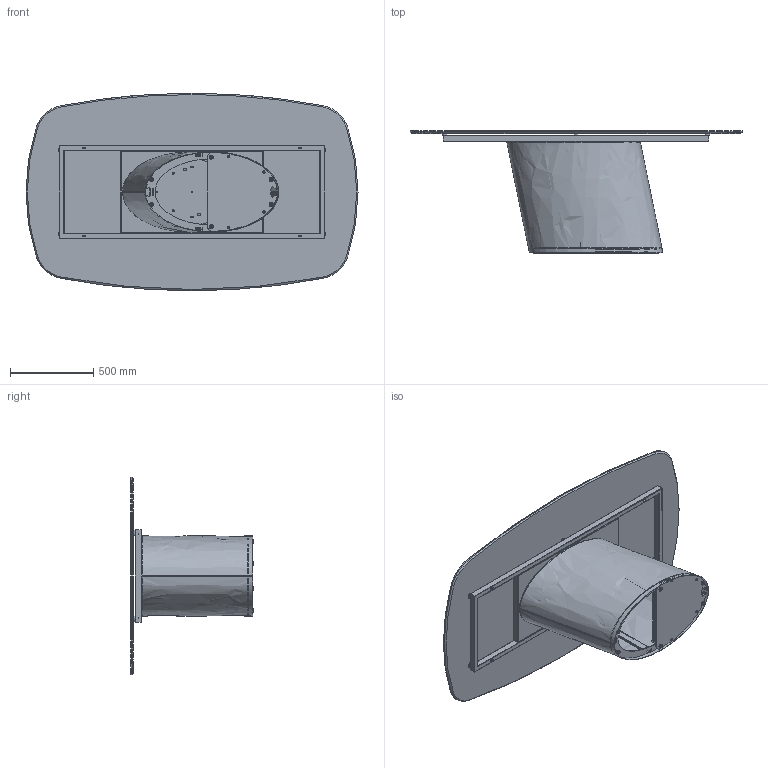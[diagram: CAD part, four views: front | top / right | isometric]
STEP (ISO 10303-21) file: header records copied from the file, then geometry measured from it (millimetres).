
FILE_DESCRIPTION (( 'STEP AP203' ), '1' );
FILE_NAME ('DO40C.STEP', '2024-08-06T13:13:07', ( '' ), ( '' ), 'SwSTEP 2.0', 'SolidWorks 2022', '' );
FILE_SCHEMA (( 'CONFIG_CONTROL_DESIGN' ));
Length unit declared in the file: millimetre
Products named in the file (20): DOB000000_01-00-piastra superiore _Default<A macchina>; TTAV01_02-05-VASSOIO IRRIGIDIMENTO TELAIO UNIVERSALE; DOB000000_03-00-Piastra  inferiore_Default<A macchina>; DOB000000_07-00-lamiera guscio sx_Default<A macchina>; DO40C; DOB000000_06-00-Lamiera guscio dx_Default<A macchina>; barra filettata H.72cm_barra; DOB000000-00-DORADO BASE GREZZO; piedino dorado; DOB000000_05-00-Zavorra intenra del dorado_Default<A macchina>; COLLO TELAIO UNIVERSALE TTAV01 CON FERRAMENTA_MTG TOP CRISTALLO VERNICIATO-CERAMICA; K4XCMXX-00-Piani Sagomati in ceramica_2000 x 1190; TTAV01_01-05-TELAIO UNIVERSALE X TAVOLI 180 240cm; TTAV01-05-TELAIO UNIVERSALE X TAVOLI 180 240cm; DOB000000_02-00-barra rettangoalre di supporto_Default<A macchina>; 434070-00-PIEDINO TPV GOMMA NERO D. 30x8max18_filo estetico; DOB000000_08-00-Zavorra inferiore_Default<A macchina>; M8xXXmm_M8X30mm; DOB000000_04-00-contrapesso filettato_Default<A macchina>; nut_M8_M8
Assembly tree (40 placements, depth 4):
  DO40C
    DOB000000-00-DORADO BASE GREZZO
      DOB000000_08-00-Zavorra inferiore_Default<A macchina>
      DOB000000_04-00-contrapesso filettato_Default<A macchina>
      DOB000000_05-00-Zavorra intenra del dorado_Default<A macchina>  x4
      DOB000000_01-00-piastra superiore _Default<A macchina>
      DOB000000_07-00-lamiera guscio sx_Default<A macchina>
      DOB000000_02-00-barra rettangoalre di supporto_Default<A macchina>  x4
      DOB000000_03-00-Piastra  inferiore_Default<A macchina>
      DOB000000_06-00-Lamiera guscio dx_Default<A macchina>
      M8xXXmm_M8X30mm  x4
      nut_M8_M8  x2
      piedino dorado  x6
      barra filettata H.72cm_barra  x2
    COLLO TELAIO UNIVERSALE TTAV01 CON FERRAMENTA_MTG TOP CRISTALLO VERNICIATO-CERAMICA
      TTAV01-05-TELAIO UNIVERSALE X TAVOLI 180 240cm
        TTAV01_02-05-VASSOIO IRRIGIDIMENTO TELAIO UNIVERSALE
        TTAV01_01-05-TELAIO UNIVERSALE X TAVOLI 180 240cm
      434070-00-PIEDINO TPV GOMMA NERO D. 30x8max18_filo estetico  x6
    K4XCMXX-00-Piani Sagomati in ceramica_2000 x 1190
Bounding box: 2000 x 738 x 1190 mm (x, y, z)
Volume: 46374258.4 mm3; surface area: 15918203.6 mm2
Topology: 50 solids, 50 shells, 1125 faces, 2725 edges, 1714 vertices
Faces by surface type: cylinder 484, plane 406, cone 101, torus 100, bspline 26, sphere 8
Entity records: 27096 total; most frequent: CARTESIAN_POINT 7888, DIRECTION 3588, ORIENTED_EDGE 3334, EDGE_CURVE 1667, AXIS2_PLACEMENT_3D 1338, VERTEX_POINT 1072, LINE 912, VECTOR 912
